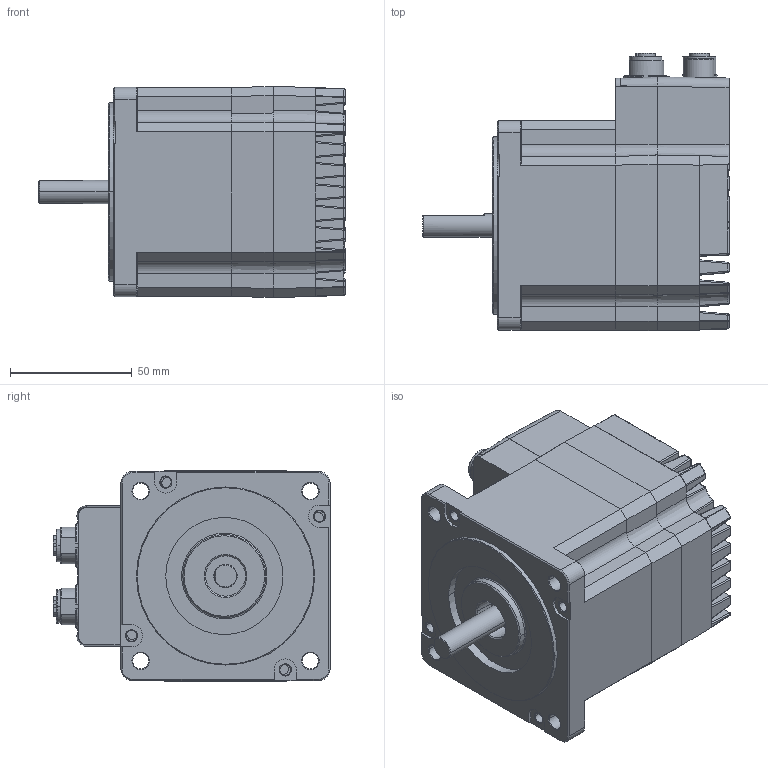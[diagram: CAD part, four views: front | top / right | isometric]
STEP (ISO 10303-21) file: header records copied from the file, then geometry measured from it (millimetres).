
FILE_DESCRIPTION((''),'2;1');
FILE_NAME('STEPPERASSY_ASM','2023-05-16T14:14:06',('Administrator'),(''),'CREO PARAMETRIC BY PTC INC, 2022014','CREO PARAMETRIC BY PTC INC, 2022014','');
FILE_SCHEMA(('AUTOMOTIVE_DESIGN { 1 0 10303 214 1 1 1 1 }'));
Length unit declared in the file: millimetre
Products named in the file (10): M34_CON_R1; M34_CON_R2; MIS34_F_CONNECTOR; M34_S953; N34PIN1; N34PIN2; N34PIN3; N34PIN4; M34_ASM; STEPPERASSY_ASM
Assembly tree (9 placements, depth 3):
  STEPPERASSY_ASM
    M34_ASM
      M34_CON_R1
      M34_CON_R2
      MIS34_F_CONNECTOR
      M34_S953
      N34PIN1
      N34PIN2
      N34PIN3
      N34PIN4
Bounding box: 125.5 x 113.9 x 86.41 mm (x, y, z)
Volume: 657356.1 mm3; surface area: 107319.2 mm2
Topology: 8 solids, 9 shells, 1230 faces, 3343 edges, 2143 vertices
Faces by surface type: cylinder 493, plane 485, sphere 109, cone 93, bspline 38, extrusion 8, torus 4
Entity records: 56801 total; most frequent: CARTESIAN_POINT 11303, DIRECTION 6770, ORIENTED_EDGE 6336, PRESENTATION_STYLE_ASSIGNMENT 3473, STYLED_ITEM 3275, CURVE_STYLE 3267, EDGE_CURVE 3168, AXIS2_PLACEMENT_3D 2517
